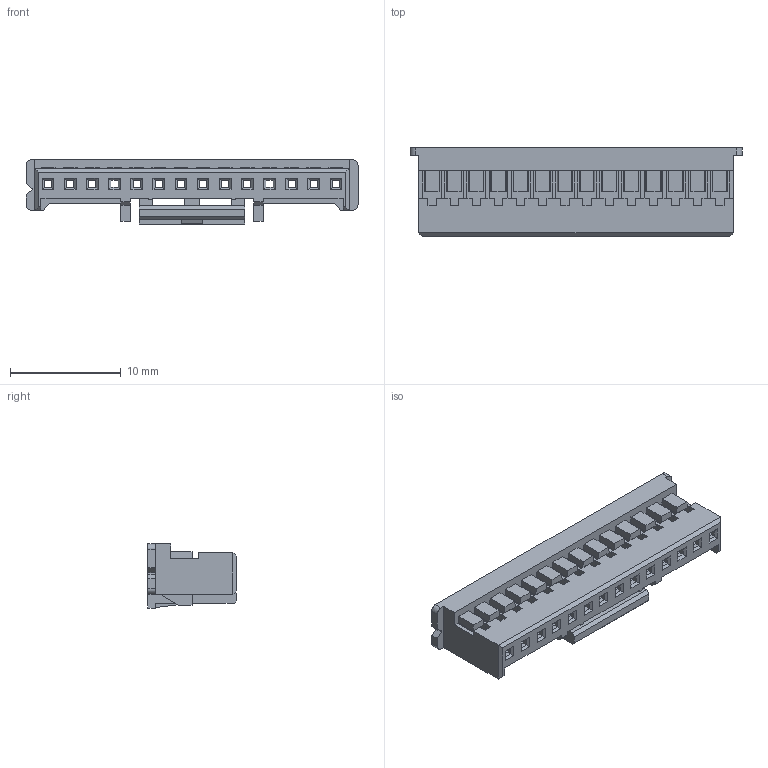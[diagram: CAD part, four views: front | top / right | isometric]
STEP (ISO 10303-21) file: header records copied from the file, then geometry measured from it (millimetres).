
FILE_DESCRIPTION(/* description */ ('STEP AP214'),/* implementation_level */ '2;1');
FILE_NAME(/* name */ 'E:\工作文件\现出货3D文件\02宏一\PAE\HC-PAE-NY (孔座-HCTL)\HC-PAE-14Y (孔座-HCTL).stp',/* time_stamp */ '2023-10-27T13:52:50+08:00',/* author */ ('admin'),/* organization */ ('Î¢ÈíÖÐ¹ú'),/* preprocessor_version */ 'ST-DEVELOPER v18.1',/* originating_system */ 'Autodesk Inventor 2021',/* authorisation */ '');
FILE_SCHEMA (('AUTOMOTIVE_DESIGN { 1 0 10303 214 3 1 1 }'));
Length unit declared in the file: millimetre
Products named in the file (1): HC-PAE-9Y (孔座-HCTL)
Bounding box: 30 x 8 x 5.8 mm (x, y, z)
Volume: 420.3 mm3; surface area: 1756.9 mm2
Topology: 1 solids, 1 shells, 552 faces, 1583 edges, 1016 vertices
Faces by surface type: plane 547, cylinder 5
Entity records: 17683 total; most frequent: ORIENTED_EDGE 3166, CARTESIAN_POINT 3152, DIRECTION 2699, EDGE_CURVE 1583, LINE 1573, VECTOR 1573, VERTEX_POINT 1016, EDGE_LOOP 595
